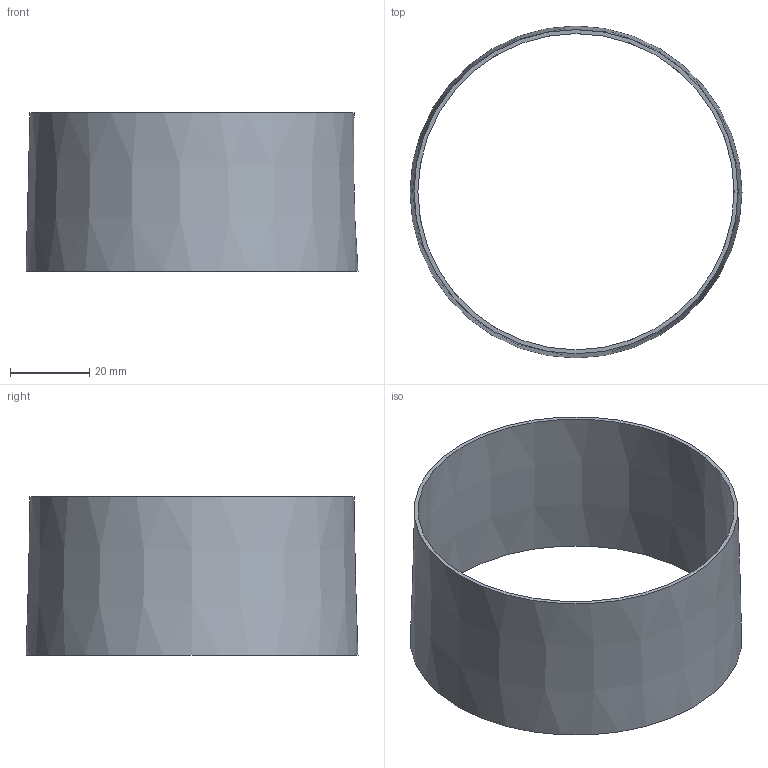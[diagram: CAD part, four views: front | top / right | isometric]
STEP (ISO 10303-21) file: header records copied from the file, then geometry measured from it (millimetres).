
FILE_DESCRIPTION(/* description */ (''),/* implementation_level */ '2;1');
FILE_NAME(/* name */ 'Z:\Geberit\Export\NewStep\359458.stp',/* time_stamp */ '2014-04-01T20:56:08+02:00',/* author */ ('ML'),/* organization */ (''),/* preprocessor_version */ 'ST-DEVELOPER v15.2',/* originating_system */ 'Autodesk Inventor 2014',/* authorisation */ '');
FILE_SCHEMA (('AUTOMOTIVE_DESIGN { 1 0 10303 214 3 1 1 }'));
Length unit declared in the file: millimetre
Products named in the file (1): 359458
Bounding box: 84 x 84 x 40 mm (x, y, z)
Volume: 10304.4 mm3; surface area: 21130.5 mm2
Topology: 1 solids, 1 shells, 4 faces, 6 edges, 4 vertices
Faces by surface type: cone 2, plane 2
Entity records: 113 total; most frequent: DIRECTION 18, CARTESIAN_POINT 13, AXIS2_PLACEMENT_3D 9, EDGE_LOOP 8, ORIENTED_EDGE 8, FACE_BOUND 6, STYLED_ITEM 5, CIRCLE 4
